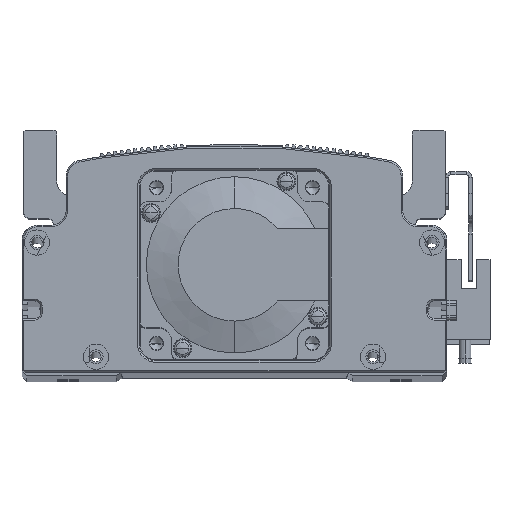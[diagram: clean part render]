
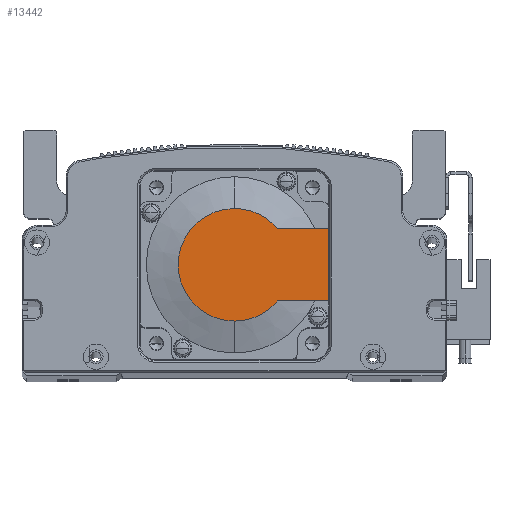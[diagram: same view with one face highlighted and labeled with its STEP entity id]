
A CAD part, top view. The second image highlights one B-rep face of the part: STEP entity #13442.
In plain terms, the highlighted planar face has unit normal (0, 0, 1) as drawn and (-1, 0, 0) by its records, which use the part's own axes.
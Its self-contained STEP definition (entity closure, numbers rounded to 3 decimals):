
#1623 = CARTESIAN_POINT ( 'NONE',  ( -118.5, 0., 0. ) ) ;
#1735 = DIRECTION ( 'NONE',  ( 0., 0., 1. ) ) ;
#2199 = DIRECTION ( 'NONE',  ( -1., 0., 0. ) ) ;
#4498 = CARTESIAN_POINT ( 'NONE',  ( -118.5, 0., 0. ) ) ;
#4738 = AXIS2_PLACEMENT_3D ( 'NONE', #40741, #8508, #12786 ) ;
#5115 = FACE_OUTER_BOUND ( 'NONE', #17030, .T. ) ;
#5226 = CIRCLE ( 'NONE', #11805, 17.881 ) ;
#6662 = VERTEX_POINT ( 'NONE', #53181 ) ;
#6768 = AXIS2_PLACEMENT_3D ( 'NONE', #28808, #2199, #1735 ) ;
#8112 = EDGE_CURVE ( 'NONE', #43623, #25514, #9241, .T. ) ;
#8508 = DIRECTION ( 'NONE',  ( -1., 0., 0. ) ) ;
#9241 = CIRCLE ( 'NONE', #4738, 17.881 ) ;
#9513 = CARTESIAN_POINT ( 'NONE',  ( -118.5, 30., 25. ) ) ;
#9762 = CARTESIAN_POINT ( 'NONE',  ( -118.5, 0., 11.45 ) ) ;
#10300 = ORIENTED_EDGE ( 'NONE', *, *, #8112, .T. ) ;
#11805 = AXIS2_PLACEMENT_3D ( 'NONE', #1623, #34358, #28217 ) ;
#12786 = DIRECTION ( 'NONE',  ( 0., 0., -1. ) ) ;
#13442 = ADVANCED_FACE ( 'NONE', ( #5115 ), #44548, .T. ) ;
#13613 = EDGE_CURVE ( 'NONE', #25514, #46826, #64039, .T. ) ;
#13686 = CARTESIAN_POINT ( 'NONE',  ( -118.5, -8.941, -11.45 ) ) ;
#15188 = DIRECTION ( 'NONE',  ( 0., -1., 0. ) ) ;
#15350 = DIRECTION ( 'NONE',  ( 0., 0., -1. ) ) ;
#17030 = EDGE_LOOP ( 'NONE', ( #45574, #39598, #10300, #67395, #32596, #18910 ) ) ;
#18910 = ORIENTED_EDGE ( 'NONE', *, *, #39884, .F. ) ;
#19629 = VECTOR ( 'NONE', #29487, 1000. ) ;
#19887 = VERTEX_POINT ( 'NONE', #59520 ) ;
#25514 = VERTEX_POINT ( 'NONE', #29530 ) ;
#27534 = CARTESIAN_POINT ( 'NONE',  ( -118.5, 30., 11.45 ) ) ;
#28217 = DIRECTION ( 'NONE',  ( 0., 0., -1. ) ) ;
#28808 = CARTESIAN_POINT ( 'NONE',  ( -118.5, -8.941, 0. ) ) ;
#29487 = DIRECTION ( 'NONE',  ( 0., -1., 0. ) ) ;
#29530 = CARTESIAN_POINT ( 'NONE',  ( -118.5, 0., 17.881 ) ) ;
#32596 = ORIENTED_EDGE ( 'NONE', *, *, #39982, .F. ) ;
#34358 = DIRECTION ( 'NONE',  ( -1., 0., 0. ) ) ;
#36434 = VERTEX_POINT ( 'NONE', #27534 ) ;
#39598 = ORIENTED_EDGE ( 'NONE', *, *, #46963, .T. ) ;
#39884 = EDGE_CURVE ( 'NONE', #6662, #36434, #49442, .T. ) ;
#39982 = EDGE_CURVE ( 'NONE', #36434, #46826, #63770, .T. ) ;
#40741 = CARTESIAN_POINT ( 'NONE',  ( -118.5, 0., 0. ) ) ;
#41753 = DIRECTION ( 'NONE',  ( 0., 0., 1. ) ) ;
#41941 = AXIS2_PLACEMENT_3D ( 'NONE', #4498, #64001, #15350 ) ;
#43623 = VERTEX_POINT ( 'NONE', #43985 ) ;
#43985 = CARTESIAN_POINT ( 'NONE',  ( -118.5, 0., -17.881 ) ) ;
#44548 = PLANE ( 'NONE',  #6768 ) ;
#45574 = ORIENTED_EDGE ( 'NONE', *, *, #46551, .T. ) ;
#46551 = EDGE_CURVE ( 'NONE', #6662, #19887, #48227, .T. ) ;
#46826 = VERTEX_POINT ( 'NONE', #47971 ) ;
#46963 = EDGE_CURVE ( 'NONE', #19887, #43623, #5226, .T. ) ;
#47971 = CARTESIAN_POINT ( 'NONE',  ( -118.5, 13.735, 11.45 ) ) ;
#48227 = LINE ( 'NONE', #13686, #19629 ) ;
#49442 = LINE ( 'NONE', #9513, #62874 ) ;
#53181 = CARTESIAN_POINT ( 'NONE',  ( -118.5, 30., -11.45 ) ) ;
#58679 = VECTOR ( 'NONE', #15188, 1000. ) ;
#59520 = CARTESIAN_POINT ( 'NONE',  ( -118.5, 13.735, -11.45 ) ) ;
#62874 = VECTOR ( 'NONE', #41753, 1000. ) ;
#63770 = LINE ( 'NONE', #9762, #58679 ) ;
#64001 = DIRECTION ( 'NONE',  ( -1., 0., 0. ) ) ;
#64039 = CIRCLE ( 'NONE', #41941, 17.881 ) ;
#67395 = ORIENTED_EDGE ( 'NONE', *, *, #13613, .T. ) ;
